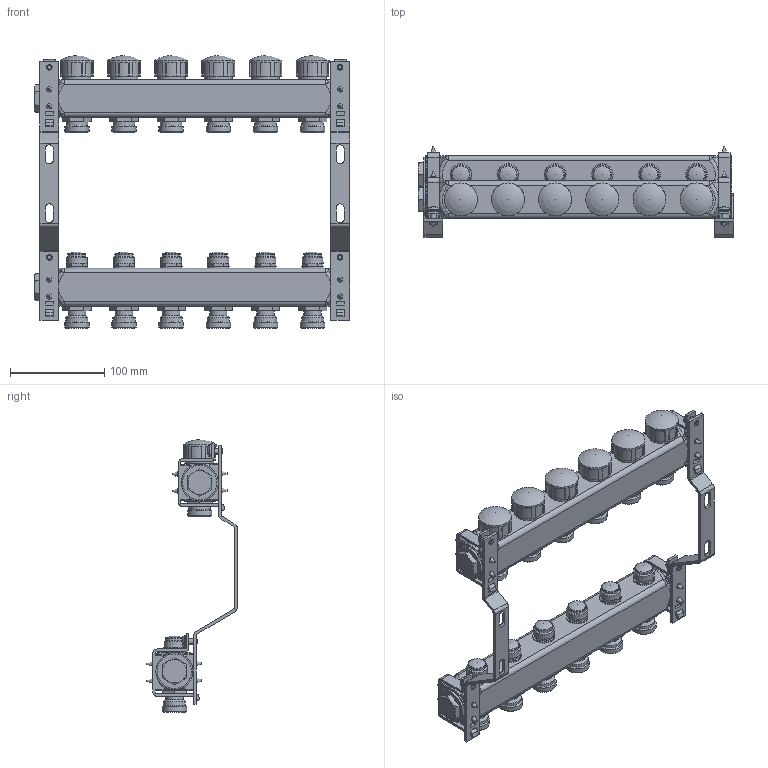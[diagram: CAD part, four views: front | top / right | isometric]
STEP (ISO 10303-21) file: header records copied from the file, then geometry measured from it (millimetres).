
FILE_DESCRIPTION(('STEP AP203'), '1');
FILE_NAME('VTc.582.EMNX.0606', '', ('UNSPECIFIED'), ('UNSPECIFIED'), 'C3D Converter', 'C3D Toolkit', '');
FILE_SCHEMA(('CONFIG_CONTROL_DESIGN'));
Length unit declared in the file: millimetre
Products named in the file (1): -03
Bounding box: 334.2 x 95.7 x 289.2 mm (x, y, z)
Volume: 1341064.3 mm3; surface area: 198659.4 mm2
Topology: 1 solids, 1 shells, 1094 faces, 2972 edges, 1900 vertices
Faces by surface type: plane 612, cylinder 280, cone 82, torus 72, bspline 36, sphere 12
Full cylindrical faces by diameter (mm): 5.4 x16, 6 x8, 12 x4, 18.4 x6, 19.3 x6, 22.9 x6, 23 x6, 23.5 x6, 25.9 x6, 26 x6, 29.5 x6, 34.9 x6, 35.3 x2, 36.5 x2, 39.3 x4
Entity records: 44067 total; most frequent: CARTESIAN_POINT 17300, ORIENTED_EDGE 5528, DIRECTION 5398, EDGE_CURVE 2764, AXIS2_PLACEMENT_3D 1911, VERTEX_POINT 1886, LINE 1576, VECTOR 1576
